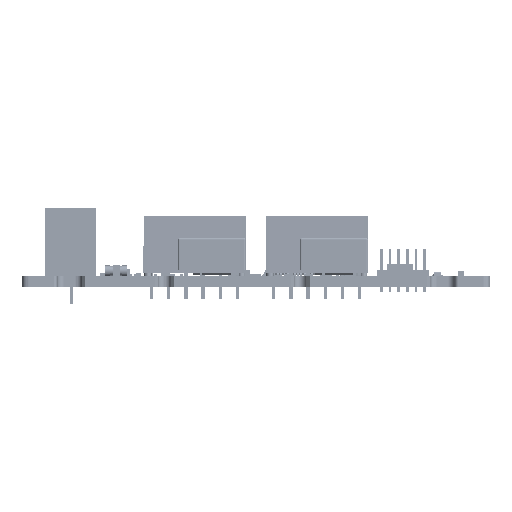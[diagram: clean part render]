
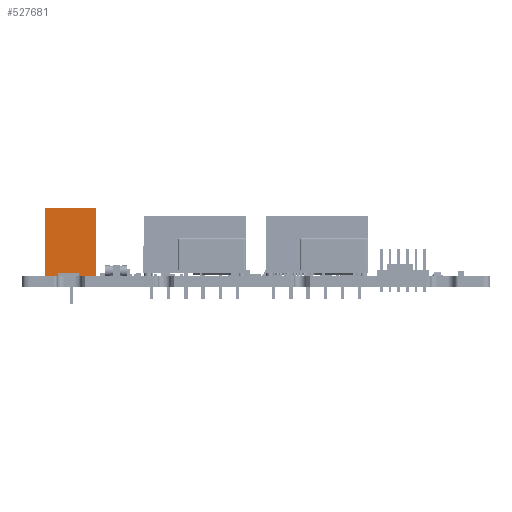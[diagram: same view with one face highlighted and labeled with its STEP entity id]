
A CAD part, left-side view. The second image highlights one B-rep face of the part: STEP entity #527681.
In plain terms, the highlighted planar face has unit normal (-1, 0, 0).
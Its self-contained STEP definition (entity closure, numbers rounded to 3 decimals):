
#527681 = ADVANCED_FACE('',(#527682),#527716,.F.);
#527682 = FACE_BOUND('',#527683,.T.);
#527683 = EDGE_LOOP('',(#527684,#527694,#527702,#527710));
#527684 = ORIENTED_EDGE('',*,*,#527685,.T.);
#527685 = EDGE_CURVE('',#527686,#527688,#527690,.T.);
#527686 = VERTEX_POINT('',#527687);
#527687 = CARTESIAN_POINT('',(67.06,65.59,
    0.));
#527688 = VERTEX_POINT('',#527689);
#527689 = CARTESIAN_POINT('',(67.06,58.09,
    0.));
#527690 = LINE('',#527691,#527692);
#527691 = CARTESIAN_POINT('',(67.06,65.59,
    0.));
#527692 = VECTOR('',#527693,1.);
#527693 = DIRECTION('',(0.,-1.,0.));
#527694 = ORIENTED_EDGE('',*,*,#527695,.F.);
#527695 = EDGE_CURVE('',#527696,#527688,#527698,.T.);
#527696 = VERTEX_POINT('',#527697);
#527697 = CARTESIAN_POINT('',(67.06,58.09,
    10.1));
#527698 = LINE('',#527699,#527700);
#527699 = CARTESIAN_POINT('',(67.06,58.09,
    10.1));
#527700 = VECTOR('',#527701,1.);
#527701 = DIRECTION('',(0.,0.,-1.));
#527702 = ORIENTED_EDGE('',*,*,#527703,.F.);
#527703 = EDGE_CURVE('',#527704,#527696,#527706,.T.);
#527704 = VERTEX_POINT('',#527705);
#527705 = CARTESIAN_POINT('',(67.06,65.59,
    10.1));
#527706 = LINE('',#527707,#527708);
#527707 = CARTESIAN_POINT('',(67.06,65.59,
    10.1));
#527708 = VECTOR('',#527709,1.);
#527709 = DIRECTION('',(0.,-1.,0.));
#527710 = ORIENTED_EDGE('',*,*,#527711,.T.);
#527711 = EDGE_CURVE('',#527704,#527686,#527712,.T.);
#527712 = LINE('',#527713,#527714);
#527713 = CARTESIAN_POINT('',(67.06,65.59,
    10.1));
#527714 = VECTOR('',#527715,1.);
#527715 = DIRECTION('',(0.,0.,-1.));
#527716 = PLANE('',#527717);
#527717 = AXIS2_PLACEMENT_3D('',#527718,#527719,#527720);
#527718 = CARTESIAN_POINT('',(67.06,65.59,
    10.1));
#527719 = DIRECTION('',(1.,0.,0.));
#527720 = DIRECTION('',(0.,1.,0.));
